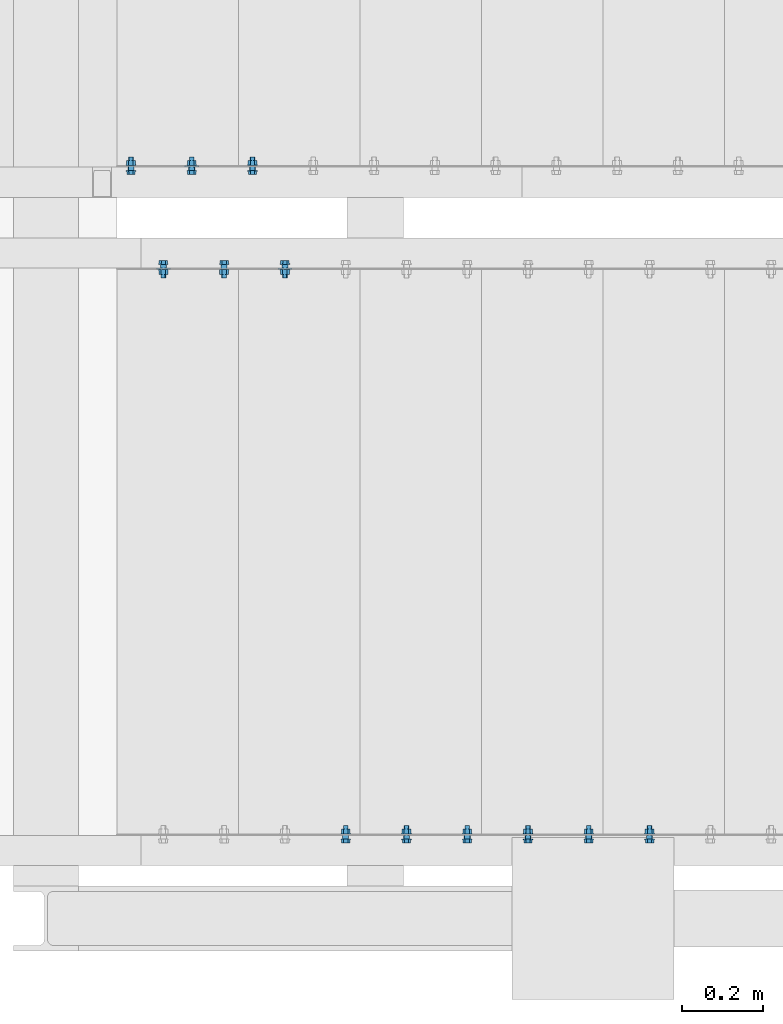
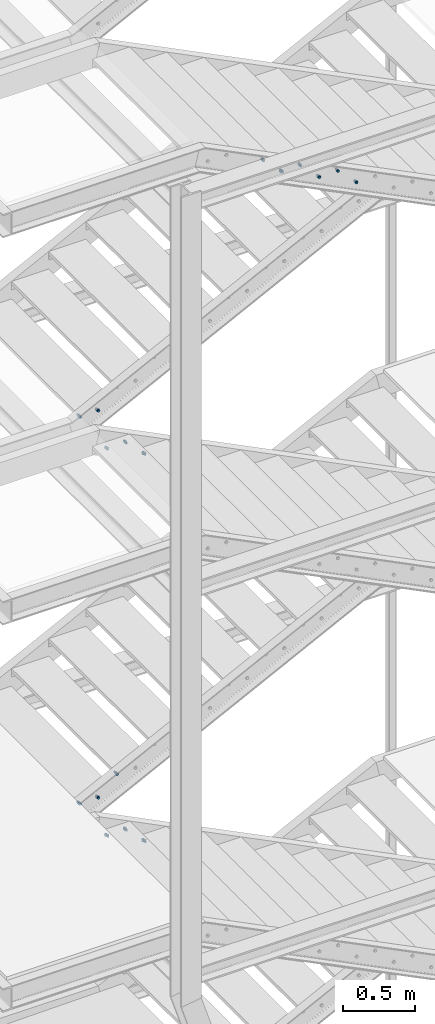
# One storey, part 99 of 132: 17 mechanical fasteners, 11 elements without a shape of their own.
"""IFC2X3 building model written with IfcOpenShell, lengths in millimetres."""

from ifc_helpers import new_model, si_unit, frame, frame_2d, origin_with_axes, origin_2d_with_axis, place, context, subcontext, project, spatial, polyline, circle_curve, parameter, trimmed, segment, composite_curve, circle, outline, extrude, source, transform, mapped, material, type_object, element, aggregate, save


model = new_model("IFC2X3")

# Units and contexts
model_context = context("Model", 3, precision=1e-05, world=origin_with_axes())
body_context = subcontext(model_context, "Body", "Model", "MODEL_VIEW")
ifc_project = project(units=[si_unit("LENGTHUNIT", "METRE", prefix="MILLI"), si_unit("AREAUNIT", "SQUARE_METRE"), si_unit("VOLUMEUNIT", "CUBIC_METRE"), si_unit("MASSUNIT", "GRAM", prefix="KILO"), si_unit("TIMEUNIT", "SECOND"), si_unit("PLANEANGLEUNIT", "RADIAN"), si_unit("SOLIDANGLEUNIT", "STERADIAN"), si_unit("THERMODYNAMICTEMPERATUREUNIT", "DEGREE_CELSIUS"), si_unit("LUMINOUSINTENSITYUNIT", "LUMEN")], contexts=[model_context])

# Site, building, storey
site_placement = place(None, origin_with_axes())
site = spatial("IfcSite", under=ifc_project, at=site_placement, Name="Budowa", CompositionType="ELEMENT")
building_placement = place(site_placement, origin_with_axes())
building = spatial("IfcBuilding", under=site, at=building_placement, Name="Undefined", CompositionType="ELEMENT")
storey_placement = place(building_placement, origin_with_axes())
storey = spatial("IfcBuildingStorey", under=building, at=storey_placement, Name="Undefined", CompositionType="ELEMENT", Elevation=0.0)

# Assembly, mechanical fastener
assembly_1_placement = place(storey_placement, origin_with_axes())
assembly_1 = element("IfcElementAssembly", 1, at=assembly_1_placement, inside=storey, Name="Steel Assembly", AssemblyPlace="NOTDEFINED", PredefinedType="RIGID_FRAME")
ifc_material = material(Name="Undefined")
discrete_accessory_type = type_object("IfcDiscreteAccessoryType", Name="Bolt assembly")
shared_shape_1 = source(origin_with_axes(), body_context, "Body", "SweptSolid", [
    extrude(circle(Radius=7.5, at=origin_2d_with_axis()), frame((0.0, -8.40000000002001, 0.0), z_axis=(0.0, 1.0, 0.0), x_axis=(1.0, 0.0, 0.0)), (0.0, 0.0, 1.0), 8.5),
    extrude(circle(Radius=7.5, at=origin_2d_with_axis()), frame((0.0, -0.1, 0.0), z_axis=(0.0, 1.0, 0.0), x_axis=(1.0, 0.0, 0.0)), (0.0, 0.0, 1.0), 3.1),
    extrude(outline(polyline([(10.39230484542, 0.0), (5.19615242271, 9.00000000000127), (-5.19615242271, 9.00000000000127), (-10.39230484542, 0.0), (-5.19615242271, -9.00000000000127), (5.19615242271, -9.00000000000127), (10.39230484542, 0.0)])), frame((0.0, -18.50000000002, 0.0), z_axis=(0.0, 1.0, 0.0), x_axis=(1.0, 0.0, 0.0)), (0.0, 0.0, 1.0), 7.5),
    extrude(circle(Radius=6.0, at=origin_2d_with_axis()), frame((0.0, -11.00000000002, 0.0), z_axis=(0.0, 1.0, 0.0), x_axis=(1.0, 0.0, 0.0)), (0.0, 0.0, 1.0), 35.0),
    extrude(circle(Radius=12.0, at=origin_2d_with_axis()), frame((0.0, -11.00000000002, 0.0), z_axis=(0.0, 1.0, 0.0), x_axis=(1.0, 0.0, 0.0)), (0.0, 0.0, 1.0), 2.5),
    extrude(circle(Radius=12.0, at=origin_2d_with_axis()), frame((0.0, 3.0, 0.0), z_axis=(0.0, 1.0, 0.0), x_axis=(1.0, 0.0, 0.0)), (0.0, 0.0, 1.0), 2.5),
    extrude(outline(polyline([(10.96965511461, 0.0), (5.484827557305, 9.50000000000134), (-5.484827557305, 9.50000000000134), (-10.96965511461, 0.0), (-5.484827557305, -9.50000000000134), (5.484827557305, -9.50000000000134), (10.96965511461, 0.0)])), frame((0.0, 5.5, 0.0), z_axis=(0.0, 1.0, 0.0), x_axis=(1.0, 0.0, 0.0)), (0.0, 0.0, 1.0), 10.0),
])
mechanical_fastener_1_placement = place(assembly_1_placement, frame((-3520.00000007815, 7875.00000004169, 12050.0000000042), z_axis=(0.0, 0.0, -1.0), x_axis=(-1.0, 0.0, 0.0)))
mechanical_fastener_1 = element("IfcMechanicalFastener", 2, at=mechanical_fastener_1_placement, type_object=discrete_accessory_type, material=ifc_material, Name="Bolt assembly", NominalDiameter=12.0, NominalLength=35.0, context=body_context, shape_type="MappedRepresentation", body=[
    mapped(shared_shape_1, transform((35.0, 0.0, 25.0))),
])
aggregate(assembly_1, [mechanical_fastener_1])

assembly_2_placement = place(storey_placement, origin_with_axes())
assembly_2 = element("IfcElementAssembly", 3, at=assembly_2_placement, inside=storey, Name="Steel Assembly", AssemblyPlace="NOTDEFINED", PredefinedType="RIGID_FRAME")
mechanical_fastener_2_placement = place(assembly_2_placement, frame((-3220.00000007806, 7875.00000004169, 11900.0000000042), z_axis=(0.0, 0.0, -1.0), x_axis=(-1.0, 0.0, 0.0)))
mechanical_fastener_2 = element("IfcMechanicalFastener", 4, at=mechanical_fastener_2_placement, type_object=discrete_accessory_type, material=ifc_material, Name="Bolt assembly", NominalDiameter=12.0, NominalLength=35.0, context=body_context, shape_type="MappedRepresentation", body=[
    mapped(shared_shape_1, transform((35.0, 0.0, 25.0))),
])

assembly_3_placement = place(storey_placement, origin_with_axes())
assembly_3 = element("IfcElementAssembly", 5, at=assembly_3_placement, inside=storey, Name="Steel Assembly", AssemblyPlace="NOTDEFINED", PredefinedType="RIGID_FRAME")
mechanical_fastener_3_placement = place(assembly_3_placement, frame((-2920.00000007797, 7875.00000004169, 11750.0000000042), z_axis=(0.0, 0.0, -1.0), x_axis=(-1.0, 0.0, 0.0)))
mechanical_fastener_3 = element("IfcMechanicalFastener", 6, at=mechanical_fastener_3_placement, type_object=discrete_accessory_type, material=ifc_material, Name="Bolt assembly", NominalDiameter=12.0, NominalLength=35.0, context=body_context, shape_type="MappedRepresentation", body=[
    mapped(shared_shape_1, transform((35.0, 0.0, 25.0))),
])

assembly_4_placement = place(storey_placement, origin_with_axes())
assembly_4 = element("IfcElementAssembly", 7, at=assembly_4_placement, inside=storey, Name="Steel Assembly", AssemblyPlace="NOTDEFINED", PredefinedType="RIGID_FRAME")
mechanical_fastener_4_placement = place(assembly_4_placement, frame((-3820.00000008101, 9525.0000000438, 9049.99999999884), z_axis=(0.0, 0.0, -1.0), x_axis=(-1.0, 0.0, 0.0)))
mechanical_fastener_4 = element("IfcMechanicalFastener", 8, at=mechanical_fastener_4_placement, type_object=discrete_accessory_type, material=ifc_material, Name="Bolt assembly", NominalDiameter=12.0, NominalLength=35.0, context=body_context, shape_type="MappedRepresentation", body=[
    mapped(shared_shape_1, transform((265.0, 0.0, 25.0))),
])

assembly_5_placement = place(storey_placement, origin_with_axes())
assembly_5 = element("IfcElementAssembly", 9, at=assembly_5_placement, inside=storey, Name="Steel Assembly", AssemblyPlace="NOTDEFINED", PredefinedType="RIGID_FRAME")
mechanical_fastener_5_placement = place(assembly_5_placement, frame((-4120.00000007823, 9275.00000004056, 8900.00000000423), z_axis=(0.0, 0.0, -1.0), x_axis=(1.0, 0.0, 0.0)))
mechanical_fastener_5 = element("IfcMechanicalFastener", 10, at=mechanical_fastener_5_placement, type_object=discrete_accessory_type, material=ifc_material, Name="Bolt assembly", NominalDiameter=12.0, NominalLength=35.0, context=body_context, shape_type="MappedRepresentation", body=[
    mapped(shared_shape_1, transform((265.0, 0.0, 25.0))),
])

assembly_6_placement = place(storey_placement, origin_with_axes())
assembly_6 = element("IfcElementAssembly", 11, at=assembly_6_placement, inside=storey, Name="Steel Assembly", AssemblyPlace="NOTDEFINED", PredefinedType="RIGID_FRAME")
mechanical_fastener_6_placement = place(assembly_6_placement, frame((-4120.00000007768, 9275.00000004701, 5599.99999999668), z_axis=(0.0, 0.0, -1.0), x_axis=(1.0, 0.0, 0.0)))
mechanical_fastener_6 = element("IfcMechanicalFastener", 12, at=mechanical_fastener_6_placement, type_object=discrete_accessory_type, material=ifc_material, Name="Bolt assembly", NominalDiameter=12.0, NominalLength=35.0, context=body_context, shape_type="MappedRepresentation", body=[
    mapped(shared_shape_1, transform((265.0, 0.0, 25.0))),
])

assembly_7_placement = place(storey_placement, origin_with_axes())
assembly_7 = element("IfcElementAssembly", 13, at=assembly_7_placement, inside=storey, Name="Steel Assembly", AssemblyPlace="NOTDEFINED", PredefinedType="RIGID_FRAME")
mechanical_fastener_7_placement = place(assembly_7_placement, frame((-3520.00000008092, 9525.0000000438, 5899.99999999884), z_axis=(0.0, 0.0, -1.0), x_axis=(-1.0, 0.0, 0.0)))
mechanical_fastener_7 = element("IfcMechanicalFastener", 14, at=mechanical_fastener_7_placement, type_object=discrete_accessory_type, material=ifc_material, Name="Bolt assembly", NominalDiameter=12.0, NominalLength=35.0, context=body_context, shape_type="MappedRepresentation", body=[
    mapped(shared_shape_1, transform((265.0, 0.0, 25.0))),
])
aggregate(assembly_7, [mechanical_fastener_7])

assembly_8_placement = place(storey_placement, origin_with_axes())
assembly_8 = element("IfcElementAssembly", 15, at=assembly_8_placement, inside=storey, Name="Steel Assembly", AssemblyPlace="NOTDEFINED", PredefinedType="RIGID_FRAME")
mechanical_fastener_8_placement = place(assembly_8_placement, frame((-3820.000000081, 9525.0000000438, 5749.99999999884), z_axis=(0.0, 0.0, -1.0), x_axis=(-1.0, 0.0, 0.0)))
mechanical_fastener_8 = element("IfcMechanicalFastener", 16, at=mechanical_fastener_8_placement, type_object=discrete_accessory_type, material=ifc_material, Name="Bolt assembly", NominalDiameter=12.0, NominalLength=35.0, context=body_context, shape_type="MappedRepresentation", body=[
    mapped(shared_shape_1, transform((265.0, 0.0, 25.0))),
])

# Mechanical fastener
shared_shape_2 = source(origin_with_axes(), body_context, "Body", "SweptSolid", [
    extrude(circle(Radius=7.5, at=origin_2d_with_axis()), frame((0.0, -8.40000000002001, 0.0), z_axis=(0.0, 1.0, 0.0), x_axis=(1.0, 0.0, 0.0)), (0.0, 0.0, 1.0), 8.5),
    extrude(outline(composite_curve([segment(polyline([(-10.0, 7.5), (10.0, 7.5)]), True, "CONTINUOUS"), segment(trimmed(circle_curve(frame_2d((10.0, 0.0), x_axis=(0.0, 1.0)), 7.5), [parameter(0.0)], [parameter(3.14159265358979)], False, "PARAMETER"), True, "CONTINUOUS"), segment(polyline([(10.0, -7.5), (-10.0, -7.5)]), True, "CONTINUOUS"), segment(trimmed(circle_curve(frame_2d((-10.0, 0.0), x_axis=(0.0, -1.0)), 7.5), [parameter(0.0)], [parameter(3.14159265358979)], False, "PARAMETER"), True, "DISCONTINUOUS")], self_intersect=False)), frame((0.0, -0.1, 0.0), z_axis=(0.0, 1.0, 0.0), x_axis=(1.0, 0.0, 0.0)), (0.0, 0.0, 1.0), 3.1),
    extrude(outline(polyline([(10.39230484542, 0.0), (5.19615242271, 9.00000000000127), (-5.19615242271, 9.00000000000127), (-10.39230484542, 0.0), (-5.19615242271, -9.00000000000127), (5.19615242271, -9.00000000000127), (10.39230484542, 0.0)])), frame((0.0, -18.50000000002, 0.0), z_axis=(0.0, 1.0, 0.0), x_axis=(1.0, 0.0, 0.0)), (0.0, 0.0, 1.0), 7.5),
    extrude(circle(Radius=6.0, at=origin_2d_with_axis()), frame((0.0, -11.00000000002, 0.0), z_axis=(0.0, 1.0, 0.0), x_axis=(1.0, 0.0, 0.0)), (0.0, 0.0, 1.0), 35.0),
    extrude(circle(Radius=12.0, at=origin_2d_with_axis()), frame((0.0, -11.00000000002, 0.0), z_axis=(0.0, 1.0, 0.0), x_axis=(1.0, 0.0, 0.0)), (0.0, 0.0, 1.0), 2.5),
    extrude(circle(Radius=12.0, at=origin_2d_with_axis()), frame((0.0, 3.0, 0.0), z_axis=(0.0, 1.0, 0.0), x_axis=(1.0, 0.0, 0.0)), (0.0, 0.0, 1.0), 2.5),
    extrude(outline(polyline([(10.96965511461, 0.0), (5.484827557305, 9.50000000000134), (-5.484827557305, 9.50000000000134), (-10.96965511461, 0.0), (-5.484827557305, -9.50000000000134), (5.484827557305, -9.50000000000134), (10.96965511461, 0.0)])), frame((0.0, 5.5, 0.0), z_axis=(0.0, 1.0, 0.0), x_axis=(1.0, 0.0, 0.0)), (0.0, 0.0, 1.0), 10.0),
])
mechanical_fastener_9_placement = place(assembly_2_placement, frame((-3220.00000007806, 7875.00000004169, 11900.0000000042), z_axis=(0.0, 0.0, -1.0), x_axis=(-1.0, 0.0, 0.0)))
mechanical_fastener_9 = element("IfcMechanicalFastener", 17, at=mechanical_fastener_9_placement, type_object=discrete_accessory_type, material=ifc_material, Name="Bolt assembly", NominalDiameter=12.0, NominalLength=35.0, context=body_context, shape_type="MappedRepresentation", body=[
    mapped(shared_shape_2, transform((185.0, 0.0, 25.0))),
])

aggregate(assembly_2, [mechanical_fastener_9, mechanical_fastener_2])

shared_shape_3 = source(origin_with_axes(), body_context, "Body", "SweptSolid", [
    extrude(circle(Radius=7.5, at=origin_2d_with_axis()), frame((0.0, -8.40000000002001, 0.0), z_axis=(0.0, 1.0, 0.0), x_axis=(1.0, 0.0, 0.0)), (0.0, 0.0, 1.0), 8.5),
    extrude(outline(composite_curve([segment(polyline([(-10.0, 7.5), (10.0, 7.5)]), True, "CONTINUOUS"), segment(trimmed(circle_curve(frame_2d((10.0, 0.0), x_axis=(0.0, 1.0)), 7.5), [parameter(0.0)], [parameter(3.14159265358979)], False, "PARAMETER"), True, "CONTINUOUS"), segment(polyline([(10.0, -7.5), (-10.0, -7.5)]), True, "CONTINUOUS"), segment(trimmed(circle_curve(frame_2d((-10.0, 0.0), x_axis=(0.0, -1.0)), 7.5), [parameter(0.0)], [parameter(3.14159265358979)], False, "PARAMETER"), True, "DISCONTINUOUS")], self_intersect=False)), frame((0.0, -0.1, 0.0), z_axis=(0.0, 1.0, 0.0), x_axis=(1.0, 0.0, 0.0)), (0.0, 0.0, 1.0), 3.1),
    extrude(outline(polyline([(10.39230484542, 0.0), (5.19615242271, 9.00000000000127), (-5.19615242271, 9.00000000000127), (-10.39230484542, 0.0), (-5.19615242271, -9.00000000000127), (5.19615242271, -9.00000000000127), (10.39230484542, 0.0)])), frame((0.0, -18.50000000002, 0.0), z_axis=(0.0, 1.0, 0.0), x_axis=(1.0, 0.0, 0.0)), (0.0, 0.0, 1.0), 7.5),
    extrude(circle(Radius=6.0, at=origin_2d_with_axis()), frame((0.0, -11.00000000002, 0.0), z_axis=(0.0, 1.0, 0.0), x_axis=(1.0, 0.0, 0.0)), (0.0, 0.0, 1.0), 35.0),
    extrude(circle(Radius=12.0, at=origin_2d_with_axis()), frame((0.0, -11.00000000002, 0.0), z_axis=(0.0, 1.0, 0.0), x_axis=(1.0, 0.0, 0.0)), (0.0, 0.0, 1.0), 2.5),
    extrude(circle(Radius=12.0, at=origin_2d_with_axis()), frame((0.0, 3.0, 0.0), z_axis=(0.0, 1.0, 0.0), x_axis=(1.0, 0.0, 0.0)), (0.0, 0.0, 1.0), 2.5),
    extrude(outline(polyline([(10.96965511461, 0.0), (5.484827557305, 9.50000000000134), (-5.484827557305, 9.50000000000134), (-10.96965511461, 0.0), (-5.484827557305, -9.50000000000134), (5.484827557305, -9.50000000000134), (10.96965511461, 0.0)])), frame((0.0, 5.5, 0.0), z_axis=(0.0, 1.0, 0.0), x_axis=(1.0, 0.0, 0.0)), (0.0, 0.0, 1.0), 10.0),
])
mechanical_fastener_10_placement = place(assembly_3_placement, frame((-2920.00000007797, 7875.00000004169, 11750.0000000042), z_axis=(0.0, 0.0, -1.0), x_axis=(-1.0, 0.0, 0.0)))
mechanical_fastener_10 = element("IfcMechanicalFastener", 18, at=mechanical_fastener_10_placement, type_object=discrete_accessory_type, material=ifc_material, Name="Bolt assembly", NominalDiameter=12.0, NominalLength=35.0, context=body_context, shape_type="MappedRepresentation", body=[
    mapped(shared_shape_3, transform((185.0, 0.0, 25.0))),
])

aggregate(assembly_3, [mechanical_fastener_10, mechanical_fastener_3])

# Assembly, mechanical fastener
assembly_9_placement = place(storey_placement, origin_with_axes())
assembly_9 = element("IfcElementAssembly", 19, at=assembly_9_placement, inside=storey, Name="Steel Assembly", AssemblyPlace="NOTDEFINED", PredefinedType="RIGID_FRAME")
shared_shape_4 = source(origin_with_axes(), body_context, "Body", "SweptSolid", [
    extrude(circle(Radius=7.5, at=origin_2d_with_axis()), frame((0.0, -8.40000000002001, 0.0), z_axis=(0.0, 1.0, 0.0), x_axis=(1.0, 0.0, 0.0)), (0.0, 0.0, 1.0), 8.5),
    extrude(outline(composite_curve([segment(polyline([(-10.0, 7.5), (10.0, 7.5)]), True, "CONTINUOUS"), segment(trimmed(circle_curve(frame_2d((10.0, 0.0), x_axis=(0.0, 1.0)), 7.5), [parameter(0.0)], [parameter(3.14159265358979)], False, "PARAMETER"), True, "CONTINUOUS"), segment(polyline([(10.0, -7.5), (-10.0, -7.5)]), True, "CONTINUOUS"), segment(trimmed(circle_curve(frame_2d((-10.0, 0.0), x_axis=(0.0, -1.0)), 7.5), [parameter(0.0)], [parameter(3.14159265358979)], False, "PARAMETER"), True, "DISCONTINUOUS")], self_intersect=False)), frame((0.0, -0.1, 0.0), z_axis=(0.0, 1.0, 0.0), x_axis=(1.0, 0.0, 0.0)), (0.0, 0.0, 1.0), 3.1),
    extrude(outline(polyline([(10.39230484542, 0.0), (5.19615242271, 9.00000000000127), (-5.19615242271, 9.00000000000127), (-10.39230484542, 0.0), (-5.19615242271, -9.00000000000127), (5.19615242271, -9.00000000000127), (10.39230484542, 0.0)])), frame((0.0, -18.50000000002, 0.0), z_axis=(0.0, 1.0, 0.0), x_axis=(1.0, 0.0, 0.0)), (0.0, 0.0, 1.0), 7.5),
    extrude(circle(Radius=6.0, at=origin_2d_with_axis()), frame((0.0, -11.00000000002, 0.0), z_axis=(0.0, 1.0, 0.0), x_axis=(1.0, 0.0, 0.0)), (0.0, 0.0, 1.0), 35.0),
    extrude(circle(Radius=12.0, at=origin_2d_with_axis()), frame((0.0, -11.00000000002, 0.0), z_axis=(0.0, 1.0, 0.0), x_axis=(1.0, 0.0, 0.0)), (0.0, 0.0, 1.0), 2.5),
    extrude(circle(Radius=12.0, at=origin_2d_with_axis()), frame((0.0, 3.0, 0.0), z_axis=(0.0, 1.0, 0.0), x_axis=(1.0, 0.0, 0.0)), (0.0, 0.0, 1.0), 2.5),
    extrude(outline(polyline([(10.96965511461, 0.0), (5.484827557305, 9.50000000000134), (-5.484827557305, 9.50000000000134), (-10.96965511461, 0.0), (-5.484827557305, -9.50000000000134), (5.484827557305, -9.50000000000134), (10.96965511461, 0.0)])), frame((0.0, 5.5, 0.0), z_axis=(0.0, 1.0, 0.0), x_axis=(1.0, 0.0, 0.0)), (0.0, 0.0, 1.0), 10.0),
])
mechanical_fastener_11_placement = place(assembly_9_placement, frame((-2620.00000007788, 7875.00000004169, 11600.000000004), z_axis=(0.0, 0.0, -1.0), x_axis=(-1.0, 0.0, 0.0)))
mechanical_fastener_11 = element("IfcMechanicalFastener", 20, at=mechanical_fastener_11_placement, type_object=discrete_accessory_type, material=ifc_material, Name="Bolt assembly", NominalDiameter=12.0, NominalLength=35.0, context=body_context, shape_type="MappedRepresentation", body=[
    mapped(shared_shape_4, transform((185.0, 0.0, 25.0))),
])
aggregate(assembly_9, [mechanical_fastener_11])

# Mechanical fastener
shared_shape_5 = source(origin_with_axes(), body_context, "Body", "SweptSolid", [
    extrude(circle(Radius=7.5, at=origin_2d_with_axis()), frame((0.0, -8.40000000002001, 0.0), z_axis=(0.0, 1.0, 0.0), x_axis=(1.0, 0.0, 0.0)), (0.0, 0.0, 1.0), 8.5),
    extrude(outline(composite_curve([segment(polyline([(-10.0, 7.5), (10.0, 7.5)]), True, "CONTINUOUS"), segment(trimmed(circle_curve(frame_2d((10.0, 0.0), x_axis=(0.0, 1.0)), 7.5), [parameter(0.0)], [parameter(3.14159265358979)], False, "PARAMETER"), True, "CONTINUOUS"), segment(polyline([(10.0, -7.5), (-10.0, -7.5)]), True, "CONTINUOUS"), segment(trimmed(circle_curve(frame_2d((-10.0, 0.0), x_axis=(0.0, -1.0)), 7.5), [parameter(0.0)], [parameter(3.14159265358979)], False, "PARAMETER"), True, "DISCONTINUOUS")], self_intersect=False)), frame((0.0, -0.1, 0.0), z_axis=(0.0, 1.0, 0.0), x_axis=(1.0, 0.0, 0.0)), (0.0, 0.0, 1.0), 3.1),
    extrude(outline(polyline([(10.39230484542, 0.0), (5.19615242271, 9.00000000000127), (-5.19615242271, 9.00000000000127), (-10.39230484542, 0.0), (-5.19615242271, -9.00000000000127), (5.19615242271, -9.00000000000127), (10.39230484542, 0.0)])), frame((0.0, -18.50000000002, 0.0), z_axis=(0.0, 1.0, 0.0), x_axis=(1.0, 0.0, 0.0)), (0.0, 0.0, 1.0), 7.5),
    extrude(circle(Radius=6.0, at=origin_2d_with_axis()), frame((0.0, -11.00000000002, 0.0), z_axis=(0.0, 1.0, 0.0), x_axis=(1.0, 0.0, 0.0)), (0.0, 0.0, 1.0), 35.0),
    extrude(circle(Radius=12.0, at=origin_2d_with_axis()), frame((0.0, -11.00000000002, 0.0), z_axis=(0.0, 1.0, 0.0), x_axis=(1.0, 0.0, 0.0)), (0.0, 0.0, 1.0), 2.5),
    extrude(circle(Radius=12.0, at=origin_2d_with_axis()), frame((0.0, 3.0, 0.0), z_axis=(0.0, 1.0, 0.0), x_axis=(1.0, 0.0, 0.0)), (0.0, 0.0, 1.0), 2.5),
    extrude(outline(polyline([(10.96965511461, 0.0), (5.484827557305, 9.50000000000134), (-5.484827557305, 9.50000000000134), (-10.96965511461, 0.0), (-5.484827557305, -9.50000000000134), (5.484827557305, -9.50000000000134), (10.96965511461, 0.0)])), frame((0.0, 5.5, 0.0), z_axis=(0.0, 1.0, 0.0), x_axis=(1.0, 0.0, 0.0)), (0.0, 0.0, 1.0), 10.0),
])
mechanical_fastener_12_placement = place(assembly_4_placement, frame((-3820.00000008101, 9525.0000000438, 9049.99999999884), z_axis=(0.0, 0.0, -1.0), x_axis=(-1.0, 0.0, 0.0)))
mechanical_fastener_12 = element("IfcMechanicalFastener", 21, at=mechanical_fastener_12_placement, type_object=discrete_accessory_type, material=ifc_material, Name="Bolt assembly", NominalDiameter=12.0, NominalLength=35.0, context=body_context, shape_type="MappedRepresentation", body=[
    mapped(shared_shape_5, transform((115.0, 0.0, 25.0))),
])

aggregate(assembly_4, [mechanical_fastener_12, mechanical_fastener_4])

shared_shape_6 = source(origin_with_axes(), body_context, "Body", "SweptSolid", [
    extrude(circle(Radius=7.5, at=origin_2d_with_axis()), frame((0.0, -8.40000000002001, 0.0), z_axis=(0.0, 1.0, 0.0), x_axis=(1.0, 0.0, 0.0)), (0.0, 0.0, 1.0), 8.5),
    extrude(outline(composite_curve([segment(polyline([(-10.0, 7.5), (10.0, 7.5)]), True, "CONTINUOUS"), segment(trimmed(circle_curve(frame_2d((10.0, 0.0), x_axis=(0.0, 1.0)), 7.5), [parameter(0.0)], [parameter(3.14159265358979)], False, "PARAMETER"), True, "CONTINUOUS"), segment(polyline([(10.0, -7.5), (-10.0, -7.5)]), True, "CONTINUOUS"), segment(trimmed(circle_curve(frame_2d((-10.0, 0.0), x_axis=(0.0, -1.0)), 7.5), [parameter(0.0)], [parameter(3.14159265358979)], False, "PARAMETER"), True, "DISCONTINUOUS")], self_intersect=False)), frame((0.0, -0.1, 0.0), z_axis=(0.0, 1.0, 0.0), x_axis=(1.0, 0.0, 0.0)), (0.0, 0.0, 1.0), 3.1),
    extrude(outline(polyline([(10.39230484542, 0.0), (5.19615242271, 9.00000000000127), (-5.19615242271, 9.00000000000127), (-10.39230484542, 0.0), (-5.19615242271, -9.00000000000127), (5.19615242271, -9.00000000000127), (10.39230484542, 0.0)])), frame((0.0, -18.50000000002, 0.0), z_axis=(0.0, 1.0, 0.0), x_axis=(1.0, 0.0, 0.0)), (0.0, 0.0, 1.0), 7.5),
    extrude(circle(Radius=6.0, at=origin_2d_with_axis()), frame((0.0, -11.00000000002, 0.0), z_axis=(0.0, 1.0, 0.0), x_axis=(1.0, 0.0, 0.0)), (0.0, 0.0, 1.0), 35.0),
    extrude(circle(Radius=12.0, at=origin_2d_with_axis()), frame((0.0, -11.00000000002, 0.0), z_axis=(0.0, 1.0, 0.0), x_axis=(1.0, 0.0, 0.0)), (0.0, 0.0, 1.0), 2.5),
    extrude(circle(Radius=12.0, at=origin_2d_with_axis()), frame((0.0, 3.0, 0.0), z_axis=(0.0, 1.0, 0.0), x_axis=(1.0, 0.0, 0.0)), (0.0, 0.0, 1.0), 2.5),
    extrude(outline(polyline([(10.96965511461, 0.0), (5.484827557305, 9.50000000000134), (-5.484827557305, 9.50000000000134), (-10.96965511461, 0.0), (-5.484827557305, -9.50000000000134), (5.484827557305, -9.50000000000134), (10.96965511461, 0.0)])), frame((0.0, 5.5, 0.0), z_axis=(0.0, 1.0, 0.0), x_axis=(1.0, 0.0, 0.0)), (0.0, 0.0, 1.0), 10.0),
])
mechanical_fastener_13_placement = place(assembly_5_placement, frame((-4120.00000007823, 9275.00000004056, 8900.00000000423), z_axis=(0.0, 0.0, -1.0), x_axis=(1.0, 0.0, 0.0)))
mechanical_fastener_13 = element("IfcMechanicalFastener", 22, at=mechanical_fastener_13_placement, type_object=discrete_accessory_type, material=ifc_material, Name="Bolt assembly", NominalDiameter=12.0, NominalLength=35.0, context=body_context, shape_type="MappedRepresentation", body=[
    mapped(shared_shape_6, transform((115.0, 0.0, 25.0))),
])

aggregate(assembly_5, [mechanical_fastener_13, mechanical_fastener_5])

# Assembly, mechanical fastener
assembly_10_placement = place(storey_placement, origin_with_axes())
assembly_10 = element("IfcElementAssembly", 23, at=assembly_10_placement, inside=storey, Name="Steel Assembly", AssemblyPlace="NOTDEFINED", PredefinedType="RIGID_FRAME")
shared_shape_7 = source(origin_with_axes(), body_context, "Body", "SweptSolid", [
    extrude(circle(Radius=7.5, at=origin_2d_with_axis()), frame((0.0, -8.40000000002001, 0.0), z_axis=(0.0, 1.0, 0.0), x_axis=(1.0, 0.0, 0.0)), (0.0, 0.0, 1.0), 8.5),
    extrude(outline(composite_curve([segment(polyline([(-10.0, 7.5), (10.0, 7.5)]), True, "CONTINUOUS"), segment(trimmed(circle_curve(frame_2d((10.0, 0.0), x_axis=(0.0, 1.0)), 7.5), [parameter(0.0)], [parameter(3.14159265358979)], False, "PARAMETER"), True, "CONTINUOUS"), segment(polyline([(10.0, -7.5), (-10.0, -7.5)]), True, "CONTINUOUS"), segment(trimmed(circle_curve(frame_2d((-10.0, 0.0), x_axis=(0.0, -1.0)), 7.5), [parameter(0.0)], [parameter(3.14159265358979)], False, "PARAMETER"), True, "DISCONTINUOUS")], self_intersect=False)), frame((0.0, -0.1, 0.0), z_axis=(0.0, 1.0, 0.0), x_axis=(1.0, 0.0, 0.0)), (0.0, 0.0, 1.0), 3.1),
    extrude(outline(polyline([(10.39230484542, 0.0), (5.19615242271, 9.00000000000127), (-5.19615242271, 9.00000000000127), (-10.39230484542, 0.0), (-5.19615242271, -9.00000000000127), (5.19615242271, -9.00000000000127), (10.39230484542, 0.0)])), frame((0.0, -18.50000000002, 0.0), z_axis=(0.0, 1.0, 0.0), x_axis=(1.0, 0.0, 0.0)), (0.0, 0.0, 1.0), 7.5),
    extrude(circle(Radius=6.0, at=origin_2d_with_axis()), frame((0.0, -11.00000000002, 0.0), z_axis=(0.0, 1.0, 0.0), x_axis=(1.0, 0.0, 0.0)), (0.0, 0.0, 1.0), 35.0),
    extrude(circle(Radius=12.0, at=origin_2d_with_axis()), frame((0.0, -11.00000000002, 0.0), z_axis=(0.0, 1.0, 0.0), x_axis=(1.0, 0.0, 0.0)), (0.0, 0.0, 1.0), 2.5),
    extrude(circle(Radius=12.0, at=origin_2d_with_axis()), frame((0.0, 3.0, 0.0), z_axis=(0.0, 1.0, 0.0), x_axis=(1.0, 0.0, 0.0)), (0.0, 0.0, 1.0), 2.5),
    extrude(outline(polyline([(10.96965511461, 0.0), (5.484827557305, 9.50000000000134), (-5.484827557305, 9.50000000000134), (-10.96965511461, 0.0), (-5.484827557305, -9.50000000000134), (5.484827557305, -9.50000000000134), (10.96965511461, 0.0)])), frame((0.0, 5.5, 0.0), z_axis=(0.0, 1.0, 0.0), x_axis=(1.0, 0.0, 0.0)), (0.0, 0.0, 1.0), 10.0),
])
mechanical_fastener_14_placement = place(assembly_10_placement, frame((-3820.00000007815, 9275.00000004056, 8750.00000000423), z_axis=(0.0, 0.0, -1.0), x_axis=(1.0, 0.0, 0.0)))
mechanical_fastener_14 = element("IfcMechanicalFastener", 24, at=mechanical_fastener_14_placement, type_object=discrete_accessory_type, material=ifc_material, Name="Bolt assembly", NominalDiameter=12.0, NominalLength=35.0, context=body_context, shape_type="MappedRepresentation", body=[
    mapped(shared_shape_7, transform((115.0, 0.0, 25.0))),
])
aggregate(assembly_10, [mechanical_fastener_14])

# Mechanical fastener
shared_shape_8 = source(origin_with_axes(), body_context, "Body", "SweptSolid", [
    extrude(circle(Radius=7.5, at=origin_2d_with_axis()), frame((0.0, -8.40000000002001, 0.0), z_axis=(0.0, 1.0, 0.0), x_axis=(1.0, 0.0, 0.0)), (0.0, 0.0, 1.0), 8.5),
    extrude(outline(composite_curve([segment(polyline([(-10.0, 7.5), (10.0, 7.5)]), True, "CONTINUOUS"), segment(trimmed(circle_curve(frame_2d((10.0, 0.0), x_axis=(0.0, 1.0)), 7.5), [parameter(0.0)], [parameter(3.14159265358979)], False, "PARAMETER"), True, "CONTINUOUS"), segment(polyline([(10.0, -7.5), (-10.0, -7.5)]), True, "CONTINUOUS"), segment(trimmed(circle_curve(frame_2d((-10.0, 0.0), x_axis=(0.0, -1.0)), 7.5), [parameter(0.0)], [parameter(3.14159265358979)], False, "PARAMETER"), True, "DISCONTINUOUS")], self_intersect=False)), frame((0.0, -0.1, 0.0), z_axis=(0.0, 1.0, 0.0), x_axis=(1.0, 0.0, 0.0)), (0.0, 0.0, 1.0), 3.1),
    extrude(outline(polyline([(10.39230484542, 0.0), (5.19615242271, 9.00000000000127), (-5.19615242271, 9.00000000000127), (-10.39230484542, 0.0), (-5.19615242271, -9.00000000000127), (5.19615242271, -9.00000000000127), (10.39230484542, 0.0)])), frame((0.0, -18.50000000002, 0.0), z_axis=(0.0, 1.0, 0.0), x_axis=(1.0, 0.0, 0.0)), (0.0, 0.0, 1.0), 7.5),
    extrude(circle(Radius=6.0, at=origin_2d_with_axis()), frame((0.0, -11.00000000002, 0.0), z_axis=(0.0, 1.0, 0.0), x_axis=(1.0, 0.0, 0.0)), (0.0, 0.0, 1.0), 35.0),
    extrude(circle(Radius=12.0, at=origin_2d_with_axis()), frame((0.0, -11.00000000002, 0.0), z_axis=(0.0, 1.0, 0.0), x_axis=(1.0, 0.0, 0.0)), (0.0, 0.0, 1.0), 2.5),
    extrude(circle(Radius=12.0, at=origin_2d_with_axis()), frame((0.0, 3.0, 0.0), z_axis=(0.0, 1.0, 0.0), x_axis=(1.0, 0.0, 0.0)), (0.0, 0.0, 1.0), 2.5),
    extrude(outline(polyline([(10.96965511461, 0.0), (5.484827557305, 9.50000000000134), (-5.484827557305, 9.50000000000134), (-10.96965511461, 0.0), (-5.484827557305, -9.50000000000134), (5.484827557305, -9.50000000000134), (10.96965511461, 0.0)])), frame((0.0, 5.5, 0.0), z_axis=(0.0, 1.0, 0.0), x_axis=(1.0, 0.0, 0.0)), (0.0, 0.0, 1.0), 10.0),
])
mechanical_fastener_15_placement = place(assembly_6_placement, frame((-4120.00000007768, 9275.00000004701, 5599.99999999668), z_axis=(0.0, 0.0, -1.0), x_axis=(1.0, 0.0, 0.0)))
mechanical_fastener_15 = element("IfcMechanicalFastener", 25, at=mechanical_fastener_15_placement, type_object=discrete_accessory_type, material=ifc_material, Name="Bolt assembly", NominalDiameter=12.0, NominalLength=35.0, context=body_context, shape_type="MappedRepresentation", body=[
    mapped(shared_shape_8, transform((115.0, 0.0, 25.0))),
])

aggregate(assembly_6, [mechanical_fastener_15, mechanical_fastener_6])

shared_shape_9 = source(origin_with_axes(), body_context, "Body", "SweptSolid", [
    extrude(circle(Radius=7.5, at=origin_2d_with_axis()), frame((0.0, -8.40000000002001, 0.0), z_axis=(0.0, 1.0, 0.0), x_axis=(1.0, 0.0, 0.0)), (0.0, 0.0, 1.0), 8.5),
    extrude(outline(composite_curve([segment(polyline([(-10.0, 7.5), (10.0, 7.5)]), True, "CONTINUOUS"), segment(trimmed(circle_curve(frame_2d((10.0, 0.0), x_axis=(0.0, 1.0)), 7.5), [parameter(0.0)], [parameter(3.14159265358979)], False, "PARAMETER"), True, "CONTINUOUS"), segment(polyline([(10.0, -7.5), (-10.0, -7.5)]), True, "CONTINUOUS"), segment(trimmed(circle_curve(frame_2d((-10.0, 0.0), x_axis=(0.0, -1.0)), 7.5), [parameter(0.0)], [parameter(3.14159265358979)], False, "PARAMETER"), True, "DISCONTINUOUS")], self_intersect=False)), frame((0.0, -0.1, 0.0), z_axis=(0.0, 1.0, 0.0), x_axis=(1.0, 0.0, 0.0)), (0.0, 0.0, 1.0), 3.1),
    extrude(outline(polyline([(10.39230484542, 0.0), (5.19615242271, 9.00000000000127), (-5.19615242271, 9.00000000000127), (-10.39230484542, 0.0), (-5.19615242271, -9.00000000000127), (5.19615242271, -9.00000000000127), (10.39230484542, 0.0)])), frame((0.0, -18.50000000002, 0.0), z_axis=(0.0, 1.0, 0.0), x_axis=(1.0, 0.0, 0.0)), (0.0, 0.0, 1.0), 7.5),
    extrude(circle(Radius=6.0, at=origin_2d_with_axis()), frame((0.0, -11.00000000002, 0.0), z_axis=(0.0, 1.0, 0.0), x_axis=(1.0, 0.0, 0.0)), (0.0, 0.0, 1.0), 35.0),
    extrude(circle(Radius=12.0, at=origin_2d_with_axis()), frame((0.0, -11.00000000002, 0.0), z_axis=(0.0, 1.0, 0.0), x_axis=(1.0, 0.0, 0.0)), (0.0, 0.0, 1.0), 2.5),
    extrude(circle(Radius=12.0, at=origin_2d_with_axis()), frame((0.0, 3.0, 0.0), z_axis=(0.0, 1.0, 0.0), x_axis=(1.0, 0.0, 0.0)), (0.0, 0.0, 1.0), 2.5),
    extrude(outline(polyline([(10.96965511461, 0.0), (5.484827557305, 9.50000000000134), (-5.484827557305, 9.50000000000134), (-10.96965511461, 0.0), (-5.484827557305, -9.50000000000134), (5.484827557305, -9.50000000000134), (10.96965511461, 0.0)])), frame((0.0, 5.5, 0.0), z_axis=(0.0, 1.0, 0.0), x_axis=(1.0, 0.0, 0.0)), (0.0, 0.0, 1.0), 10.0),
])
mechanical_fastener_16_placement = place(assembly_8_placement, frame((-3820.000000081, 9525.0000000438, 5749.99999999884), z_axis=(0.0, 0.0, -1.0), x_axis=(-1.0, 0.0, 0.0)))
mechanical_fastener_16 = element("IfcMechanicalFastener", 26, at=mechanical_fastener_16_placement, type_object=discrete_accessory_type, material=ifc_material, Name="Bolt assembly", NominalDiameter=12.0, NominalLength=35.0, context=body_context, shape_type="MappedRepresentation", body=[
    mapped(shared_shape_9, transform((115.0, 0.0, 25.0))),
])

aggregate(assembly_8, [mechanical_fastener_16, mechanical_fastener_8])

# Assembly, mechanical fastener
assembly_11_placement = place(storey_placement, origin_with_axes())
assembly_11 = element("IfcElementAssembly", 27, at=assembly_11_placement, inside=storey, Name="Steel Assembly", AssemblyPlace="NOTDEFINED", PredefinedType="RIGID_FRAME")
shared_shape_10 = source(origin_with_axes(), body_context, "Body", "SweptSolid", [
    extrude(circle(Radius=7.5, at=origin_2d_with_axis()), frame((0.0, -8.40000000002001, 0.0), z_axis=(0.0, 1.0, 0.0), x_axis=(1.0, 0.0, 0.0)), (0.0, 0.0, 1.0), 8.5),
    extrude(outline(composite_curve([segment(polyline([(-10.0, 7.5), (10.0, 7.5)]), True, "CONTINUOUS"), segment(trimmed(circle_curve(frame_2d((10.0, 0.0), x_axis=(0.0, 1.0)), 7.5), [parameter(0.0)], [parameter(3.14159265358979)], False, "PARAMETER"), True, "CONTINUOUS"), segment(polyline([(10.0, -7.5), (-10.0, -7.5)]), True, "CONTINUOUS"), segment(trimmed(circle_curve(frame_2d((-10.0, 0.0), x_axis=(0.0, -1.0)), 7.5), [parameter(0.0)], [parameter(3.14159265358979)], False, "PARAMETER"), True, "DISCONTINUOUS")], self_intersect=False)), frame((0.0, -0.1, 0.0), z_axis=(0.0, 1.0, 0.0), x_axis=(1.0, 0.0, 0.0)), (0.0, 0.0, 1.0), 3.1),
    extrude(outline(polyline([(10.39230484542, 0.0), (5.19615242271, 9.00000000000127), (-5.19615242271, 9.00000000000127), (-10.39230484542, 0.0), (-5.19615242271, -9.00000000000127), (5.19615242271, -9.00000000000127), (10.39230484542, 0.0)])), frame((0.0, -18.50000000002, 0.0), z_axis=(0.0, 1.0, 0.0), x_axis=(1.0, 0.0, 0.0)), (0.0, 0.0, 1.0), 7.5),
    extrude(circle(Radius=6.0, at=origin_2d_with_axis()), frame((0.0, -11.00000000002, 0.0), z_axis=(0.0, 1.0, 0.0), x_axis=(1.0, 0.0, 0.0)), (0.0, 0.0, 1.0), 35.0),
    extrude(circle(Radius=12.0, at=origin_2d_with_axis()), frame((0.0, -11.00000000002, 0.0), z_axis=(0.0, 1.0, 0.0), x_axis=(1.0, 0.0, 0.0)), (0.0, 0.0, 1.0), 2.5),
    extrude(circle(Radius=12.0, at=origin_2d_with_axis()), frame((0.0, 3.0, 0.0), z_axis=(0.0, 1.0, 0.0), x_axis=(1.0, 0.0, 0.0)), (0.0, 0.0, 1.0), 2.5),
    extrude(outline(polyline([(10.96965511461, 0.0), (5.484827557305, 9.50000000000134), (-5.484827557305, 9.50000000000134), (-10.96965511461, 0.0), (-5.484827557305, -9.50000000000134), (5.484827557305, -9.50000000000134), (10.96965511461, 0.0)])), frame((0.0, 5.5, 0.0), z_axis=(0.0, 1.0, 0.0), x_axis=(1.0, 0.0, 0.0)), (0.0, 0.0, 1.0), 10.0),
])
mechanical_fastener_17_placement = place(assembly_11_placement, frame((-3820.00000007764, 9275.00000004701, 5449.99999999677), z_axis=(0.0, 0.0, -1.0), x_axis=(1.0, 0.0, 0.0)))
mechanical_fastener_17 = element("IfcMechanicalFastener", 28, at=mechanical_fastener_17_placement, type_object=discrete_accessory_type, material=ifc_material, Name="Bolt assembly", NominalDiameter=12.0, NominalLength=35.0, context=body_context, shape_type="MappedRepresentation", body=[
    mapped(shared_shape_10, transform((115.0, 0.0, 25.0))),
])
aggregate(assembly_11, [mechanical_fastener_17])

save(model, "model.ifc")
